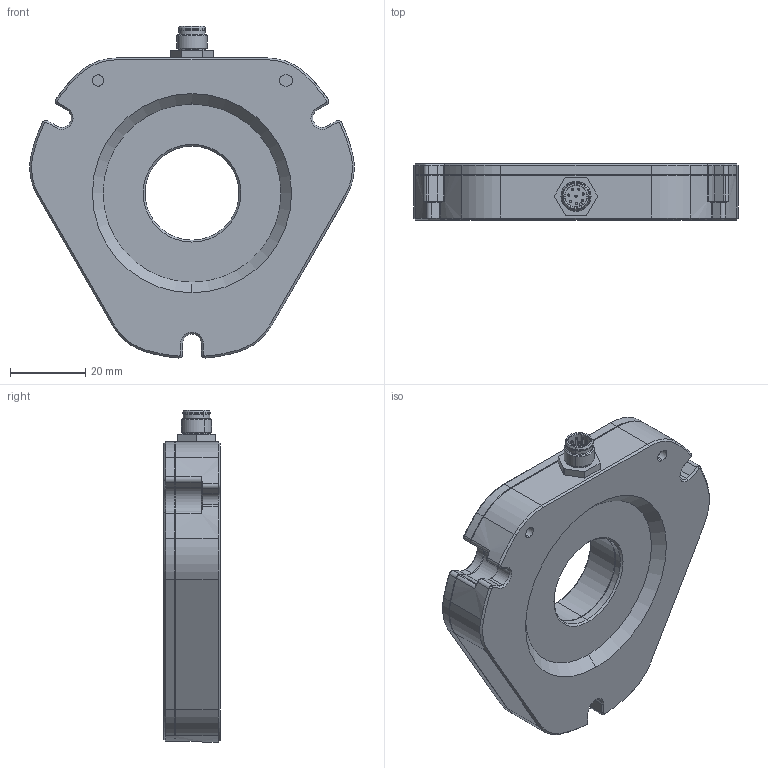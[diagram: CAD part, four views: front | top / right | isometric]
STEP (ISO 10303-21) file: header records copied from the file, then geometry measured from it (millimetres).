
FILE_DESCRIPTION (( 'STEP AP214' ), '1' );
FILE_NAME ('ORBIS_BR30_connector.STEP', '2024-08-29T13:59:34', ( '' ), ( '' ), 'SwSTEP 2.0', 'SolidWorks 2022', '' );
FILE_SCHEMA (( 'AUTOMOTIVE_DESIGN' ));
Length unit declared in the file: millimetre
Products named in the file (1): ORBIS_BR30_connector
Bounding box: 86.31 x 15 x 88.36 mm (x, y, z)
Volume: 65095.6 mm3; surface area: 16723.8 mm2
Topology: 8 solids, 8 shells, 1170 faces, 2872 edges, 1765 vertices
Faces by surface type: plane 392, cylinder 287, cone 241, bspline 226, torus 24
Entity records: 53256 total; most frequent: CARTESIAN_POINT 13683, ORIENTED_EDGE 5696, DIRECTION 5257, EDGE_CURVE 2848, AXIS2_PLACEMENT_3D 1917, VERTEX_POINT 1765, VECTOR 1423, LINE 1423
